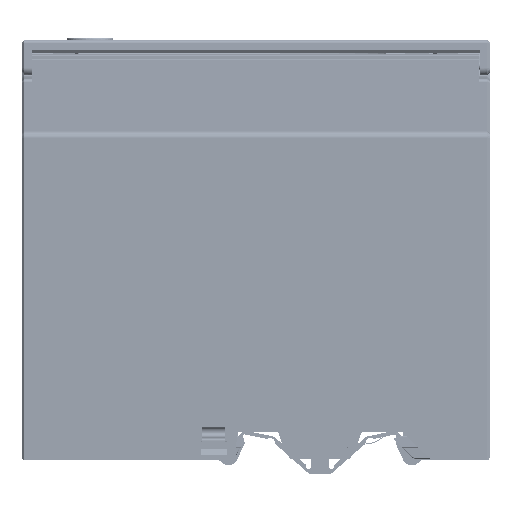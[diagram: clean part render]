
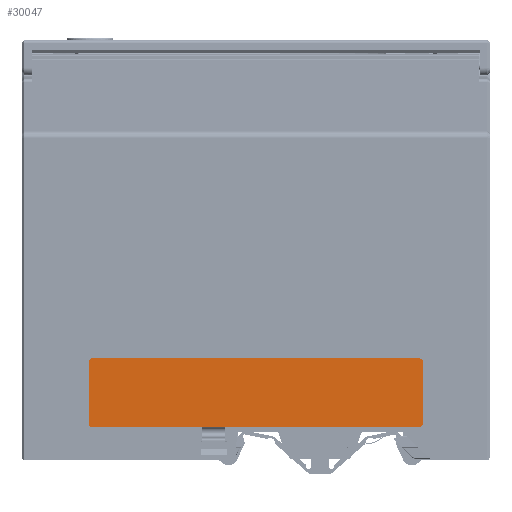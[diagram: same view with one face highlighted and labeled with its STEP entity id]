
A CAD part, left-side view. The second image highlights one B-rep face of the part: STEP entity #30047.
In plain terms, the highlighted planar face has unit normal (-1, 0, 0).
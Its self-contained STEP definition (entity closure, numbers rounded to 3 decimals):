
#15438 = EDGE_CURVE ( 'NONE', #279624, #271611, #382486, .T. ) ;
#20403 = DIRECTION ( 'NONE',  ( 0., 1., 0. ) ) ;
#22985 = ORIENTED_EDGE ( 'NONE', *, *, #15438, .T. ) ;
#29983 = VERTEX_POINT ( 'NONE', #300163 ) ;
#30047 = ADVANCED_FACE ( 'NONE', ( #275161 ), #345598, .T. ) ;
#38787 = VECTOR ( 'NONE', #20403, 1000. ) ;
#41405 = AXIS2_PLACEMENT_3D ( 'NONE', #181629, #99472, #514991 ) ;
#43235 = CARTESIAN_POINT ( 'NONE',  ( -1., 0., 7.15 ) ) ;
#71447 = EDGE_CURVE ( 'NONE', #71679, #422193, #465322, .T. ) ;
#71648 = CIRCLE ( 'NONE', #420818, 0.8 ) ;
#71679 = VERTEX_POINT ( 'NONE', #453621 ) ;
#75410 = VERTEX_POINT ( 'NONE', #309337 ) ;
#79056 = ORIENTED_EDGE ( 'NONE', *, *, #511329, .T. ) ;
#81400 = AXIS2_PLACEMENT_3D ( 'NONE', #231638, #273579, #100341 ) ;
#84223 = ORIENTED_EDGE ( 'NONE', *, *, #386242, .T. ) ;
#85065 = DIRECTION ( 'NONE',  ( 0., -1., 0. ) ) ;
#86739 = CARTESIAN_POINT ( 'NONE',  ( -1., -35., 7.95 ) ) ;
#93849 = DIRECTION ( 'NONE',  ( 0., 0., 1. ) ) ;
#99472 = DIRECTION ( 'NONE',  ( -1., 0., 0. ) ) ;
#100341 = DIRECTION ( 'NONE',  ( 0., 0., -1. ) ) ;
#124037 = ORIENTED_EDGE ( 'NONE', *, *, #169675, .T. ) ;
#137965 = AXIS2_PLACEMENT_3D ( 'NONE', #86739, #376599, #374824 ) ;
#142782 = EDGE_CURVE ( 'NONE', #533609, #71679, #524322, .T. ) ;
#161127 = CARTESIAN_POINT ( 'NONE',  ( -1., -35., 21.05 ) ) ;
#169675 = EDGE_CURVE ( 'NONE', #29983, #273500, #270624, .T. ) ;
#172811 = LINE ( 'NONE', #259863, #199096 ) ;
#181629 = CARTESIAN_POINT ( 'NONE',  ( -1., 0., 0. ) ) ;
#199096 = VECTOR ( 'NONE', #93849, 1000. ) ;
#216607 = ORIENTED_EDGE ( 'NONE', *, *, #239687, .T. ) ;
#231638 = CARTESIAN_POINT ( 'NONE',  ( -1., 35., 7.95 ) ) ;
#239687 = EDGE_CURVE ( 'NONE', #271611, #75410, #423526, .T. ) ;
#240618 = DIRECTION ( 'NONE',  ( 0., 0., -1. ) ) ;
#259863 = CARTESIAN_POINT ( 'NONE',  ( -1., -35.8, 0. ) ) ;
#270624 = CIRCLE ( 'NONE', #137965, 0.8 ) ;
#271611 = VERTEX_POINT ( 'NONE', #395300 ) ;
#273500 = VERTEX_POINT ( 'NONE', #496538 ) ;
#273579 = DIRECTION ( 'NONE',  ( -1., 0., 0. ) ) ;
#275161 = FACE_OUTER_BOUND ( 'NONE', #431997, .T. ) ;
#279624 = VERTEX_POINT ( 'NONE', #341368 ) ;
#300163 = CARTESIAN_POINT ( 'NONE',  ( -1., -35., 7.15 ) ) ;
#309337 = CARTESIAN_POINT ( 'NONE',  ( -1., 35., 21.85 ) ) ;
#333942 = CARTESIAN_POINT ( 'NONE',  ( -1., 35., 21.05 ) ) ;
#341368 = CARTESIAN_POINT ( 'NONE',  ( -1., -35.8, 21.05 ) ) ;
#345598 = PLANE ( 'NONE',  #41405 ) ;
#360587 = CARTESIAN_POINT ( 'NONE',  ( -1., 35.8, 21.05 ) ) ;
#374824 = DIRECTION ( 'NONE',  ( 0., 0., -1. ) ) ;
#376599 = DIRECTION ( 'NONE',  ( -1., 0., 0. ) ) ;
#377589 = ORIENTED_EDGE ( 'NONE', *, *, #71447, .T. ) ;
#378782 = VECTOR ( 'NONE', #85065, 1000. ) ;
#382486 = CIRCLE ( 'NONE', #473204, 0.8 ) ;
#382981 = DIRECTION ( 'NONE',  ( -1., 0., 0. ) ) ;
#386242 = EDGE_CURVE ( 'NONE', #422193, #29983, #476574, .T. ) ;
#395300 = CARTESIAN_POINT ( 'NONE',  ( -1., -35., 21.85 ) ) ;
#420818 = AXIS2_PLACEMENT_3D ( 'NONE', #333942, #382981, #421197 ) ;
#421197 = DIRECTION ( 'NONE',  ( 0., 0., -1. ) ) ;
#422193 = VERTEX_POINT ( 'NONE', #432346 ) ;
#423526 = LINE ( 'NONE', #498203, #38787 ) ;
#426429 = VECTOR ( 'NONE', #240618, 1000. ) ;
#431997 = EDGE_LOOP ( 'NONE', ( #216607, #79056, #493838, #377589, #84223, #124037, #442606, #22985 ) ) ;
#432346 = CARTESIAN_POINT ( 'NONE',  ( -1., 35., 7.15 ) ) ;
#435534 = EDGE_CURVE ( 'NONE', #273500, #279624, #172811, .T. ) ;
#442606 = ORIENTED_EDGE ( 'NONE', *, *, #435534, .T. ) ;
#453621 = CARTESIAN_POINT ( 'NONE',  ( -1., 35.8, 7.95 ) ) ;
#465322 = CIRCLE ( 'NONE', #81400, 0.8 ) ;
#473204 = AXIS2_PLACEMENT_3D ( 'NONE', #161127, #538244, #496367 ) ;
#476574 = LINE ( 'NONE', #43235, #378782 ) ;
#493838 = ORIENTED_EDGE ( 'NONE', *, *, #142782, .T. ) ;
#496367 = DIRECTION ( 'NONE',  ( 0., 0., -1. ) ) ;
#496538 = CARTESIAN_POINT ( 'NONE',  ( -1., -35.8, 7.95 ) ) ;
#498203 = CARTESIAN_POINT ( 'NONE',  ( -1., 0., 21.85 ) ) ;
#511329 = EDGE_CURVE ( 'NONE', #75410, #533609, #71648, .T. ) ;
#514991 = DIRECTION ( 'NONE',  ( 0., 0., 1. ) ) ;
#524322 = LINE ( 'NONE', #528460, #426429 ) ;
#528460 = CARTESIAN_POINT ( 'NONE',  ( -1., 35.8, 0. ) ) ;
#533609 = VERTEX_POINT ( 'NONE', #360587 ) ;
#538244 = DIRECTION ( 'NONE',  ( -1., 0., 0. ) ) ;
